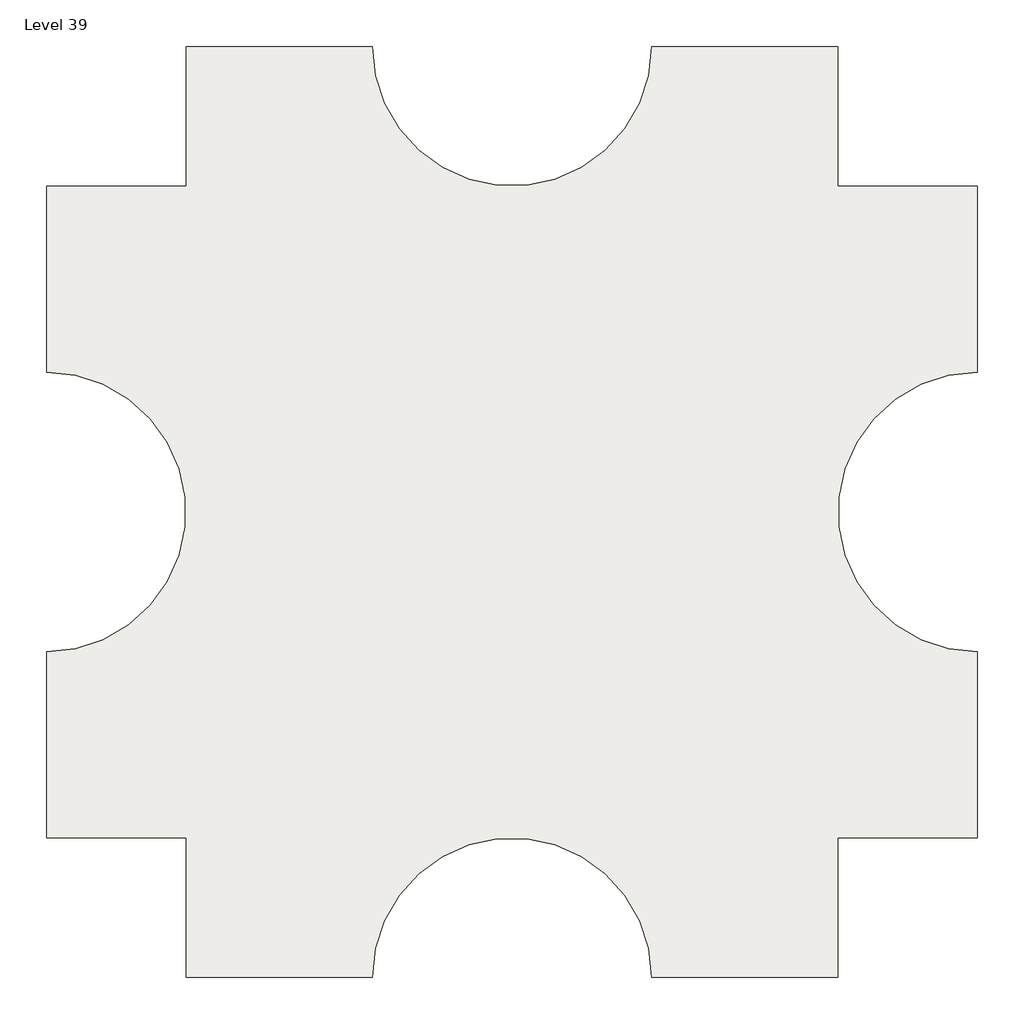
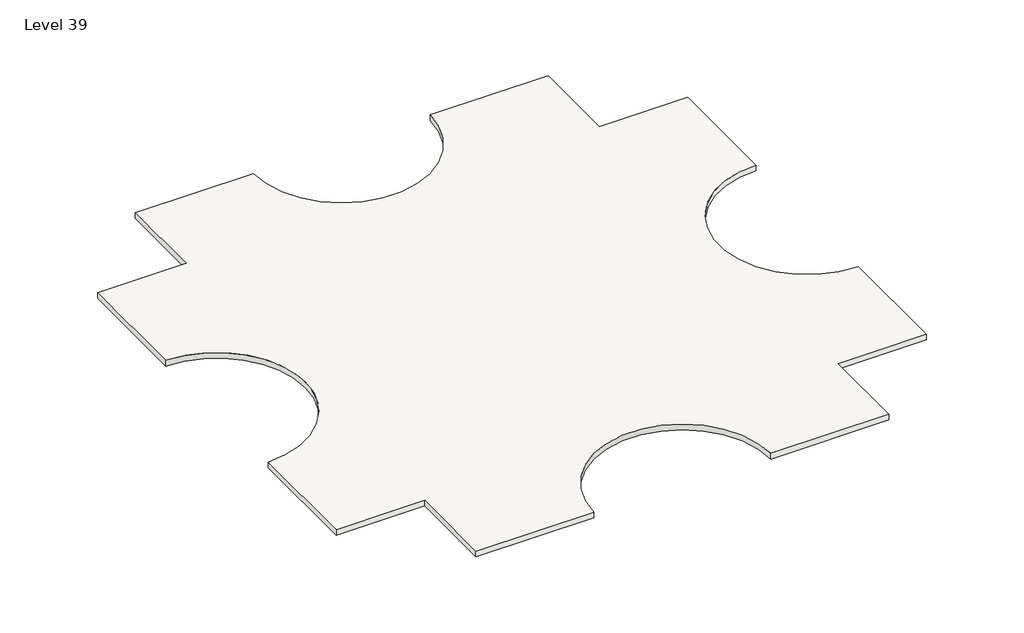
# One storey: 2 slabs.
"""IFC4 building model written with IfcOpenShell, lengths in millimetres."""

import ifcopenshell
import ifcopenshell.guid

model = None  # the IFC model being written
_history = None  # IfcOwnerHistory: only IFC2X3 demands one
_inside = {}  # id of a spatial element -> (the spatial element, [elements in it])
_under = {}  # id of a project, library or spatial element -> (it, [spatial elements below it])
_declared = {}  # id of a project -> (the project, [libraries it declares])
_typed = {}  # id of a type object -> (the type object, [elements of that type])
_made_of = {}  # id of a material, layer set ... -> (it, [elements and type objects made of it])


def new_model(schema):
    """Start an empty IFC model of exactly this schema.

    Asked for "IFC4X3", IfcOpenShell would pick the latest addendum, in which some entities
    have other attributes; the version numbers below select the first issue.
    IFC2X3 requires an IfcOwnerHistory on every rooted entity: one is made here for all.
    """
    global model, _history
    if schema == "IFC4X3":
        model = ifcopenshell.file(schema_version=(4, 3, 0, 0))
    else:
        model = ifcopenshell.file(schema=schema)
    _inside.clear()
    _under.clear()
    _declared.clear()
    _typed.clear()
    _made_of.clear()
    _history = None
    if model.schema == "IFC2X3":
        org = make("IfcOrganization", Name="unknown")
        user = make(
            "IfcPersonAndOrganization",
            ThePerson=make("IfcPerson", FamilyName="unknown"),
            TheOrganization=org,
        )
        app = make(
            "IfcApplication",
            ApplicationDeveloper=org,
            Version="unknown",
            ApplicationFullName="unknown",
            ApplicationIdentifier="unknown",
        )
        _history = make(
            "IfcOwnerHistory",
            OwningUser=user,
            OwningApplication=app,
            ChangeAction="ADDED",
            CreationDate=0,
        )
    return model


def make(cls, **values):
    """One entity of the class cls with the attributes given. An attribute that is None is left unset."""
    return model.create_entity(
        cls, **{name: value for name, value in values.items() if value is not None}
    )


def rooted(cls, **values):
    """An entity with a GlobalId (a new one), such as an element, a storey or a relation."""
    return make(cls, GlobalId=ifcopenshell.guid.new(), OwnerHistory=_history, **values)


def si_unit(unit_type, name, prefix=None):
    """IfcSIUnit, for example si_unit("LENGTHUNIT", "METRE", prefix="MILLI")."""
    return make("IfcSIUnit", UnitType=unit_type, Prefix=prefix, Name=name)


def assignment(units):
    """IfcUnitAssignment: the units of a project."""
    return None if units is None else make("IfcUnitAssignment", Units=units)


def point(xyz):
    """IfcCartesianPoint."""
    return None if xyz is None else make("IfcCartesianPoint", Coordinates=xyz)


def direction(xyz):
    """IfcDirection."""
    return None if xyz is None else make("IfcDirection", DirectionRatios=xyz)


def frame(location, z_axis=None, x_axis=None):
    """IfcAxis2Placement3D, a coordinate frame: its origin and axes. An axis left out is left unset."""
    return make(
        "IfcAxis2Placement3D",
        Location=point(location),
        Axis=direction(z_axis),
        RefDirection=direction(x_axis),
    )


def frame_2d(location, x_axis=None):
    """IfcAxis2Placement2D, a coordinate frame in the plane: its origin and x axis."""
    return make(
        "IfcAxis2Placement2D", Location=point(location), RefDirection=direction(x_axis)
    )


def origin():
    """The frame at (0, 0, 0) with its axes left unset."""
    return frame((0.0, 0.0, 0.0))


def place(relative_to, where):
    """IfcLocalPlacement: puts the frame where relative to a parent placement (None: the world)."""
    return make(
        "IfcLocalPlacement", PlacementRelTo=relative_to, RelativePlacement=where
    )


def context(
    kind, dimensions, precision=None, world=None, true_north=None, identifier=None
):
    """IfcGeometricRepresentationContext, for example the 3D "Model" context."""
    return make(
        "IfcGeometricRepresentationContext",
        ContextIdentifier=identifier,
        ContextType=kind,
        CoordinateSpaceDimension=dimensions,
        Precision=precision,
        WorldCoordinateSystem=world,
        TrueNorth=true_north,
    )


def project(units=None, contexts=None):
    """IfcProject with its units and contexts."""
    return rooted(
        "IfcProject",
        Name="project",
        RepresentationContexts=contexts,
        UnitsInContext=assignment(units),
    )


def spatial(cls, under=None, at=None, **own):
    """A site, building, storey or space (cls), placed at a placement, below another one or the project."""
    s = rooted(cls, ObjectPlacement=at, **own)
    if under is not None:
        _under.setdefault(under.id(), (under, []))[1].append(s)
    return s


def polyline(points):
    """IfcPolyline through the points."""
    return make("IfcPolyline", Points=[point(p) for p in points])


def circle_curve(where, radius):
    """IfcCircle in the frame where."""
    return make("IfcCircle", Position=where, Radius=radius)


def trimmed(basis, trim1, trim2, sense, master):
    """IfcTrimmedCurve: the piece of a basis curve between two trims."""
    return make(
        "IfcTrimmedCurve",
        BasisCurve=basis,
        Trim1=trim1,
        Trim2=trim2,
        SenseAgreement=sense,
        MasterRepresentation=master,
    )


def segment(curve, same_sense, transition):
    """IfcCompositeCurveSegment."""
    return make(
        "IfcCompositeCurveSegment",
        Transition=transition,
        SameSense=same_sense,
        ParentCurve=curve,
    )


def composite_curve(segments, self_intersect=None):
    """IfcCompositeCurve: segments joined end to end."""
    return make("IfcCompositeCurve", Segments=segments, SelfIntersect=self_intersect)


def outline(outer, holes=None, kind="AREA"):
    """IfcArbitraryClosedProfileDef: a profile drawn as a closed curve; with holes, ...WithVoids."""
    if holes is None:
        return make("IfcArbitraryClosedProfileDef", ProfileType=kind, OuterCurve=outer)
    return make(
        "IfcArbitraryProfileDefWithVoids",
        ProfileType=kind,
        OuterCurve=outer,
        InnerCurves=holes,
    )


def extrude(swept, where, along, depth):
    """IfcExtrudedAreaSolid: the profile swept, set in the frame where, extruded along a direction by depth."""
    return make(
        "IfcExtrudedAreaSolid",
        SweptArea=swept,
        Position=where,
        ExtrudedDirection=direction(along),
        Depth=depth,
    )


def shape(context_of_items, identifier, shape_type, items):
    """IfcShapeRepresentation: the items that make up one representation, for example the "Body"."""
    return make(
        "IfcShapeRepresentation",
        ContextOfItems=context_of_items,
        RepresentationIdentifier=identifier,
        RepresentationType=shape_type,
        Items=items,
    )


def made_of(thing, what):
    """Note that an element or type object is made of a material, layer set ...; save() writes the relation."""
    if what is not None:
        _made_of.setdefault(what.id(), (what, []))[1].append(thing)
    return thing


def element(
    cls,
    number,
    at=None,
    inside=None,
    cuts=None,
    type_object=None,
    material=None,
    context=None,
    identifier="Body",
    shape_type=None,
    held_by="IfcProductDefinitionShape",
    body=None,
    shapes=None,
    **own,
):
    """One element of the class cls, such as IfcWall. Its Tag is "e" and its number.

    at: its placement. inside: the storey or other place that contains it. cuts: it is an
    opening in that element (IfcRelVoidsElement). A single representation is given by context,
    identifier, shape_type and body (its items); several are given by shapes. held_by: the class
    of the entity that holds the representations. save() writes the other relations.
    """
    e = rooted(cls, Tag="e%d" % number, ObjectPlacement=at, **own)
    if body is not None:
        shapes = [shape(context, identifier, shape_type, body)]
    if shapes is not None:
        e.Representation = make(held_by, Representations=shapes)
    if inside is not None:
        _inside.setdefault(inside.id(), (inside, []))[1].append(e)
    if cuts is not None:
        rooted(
            "IfcRelVoidsElement", RelatingBuildingElement=cuts, RelatedOpeningElement=e
        )
    if type_object is not None:
        _typed.setdefault(type_object.id(), (type_object, []))[1].append(e)
    return made_of(e, material)


def aggregate(whole, parts):
    """IfcRelAggregates: a whole, such as a stair, and the parts it consists of."""
    return rooted("IfcRelAggregates", RelatingObject=whole, RelatedObjects=parts)


def save(model, path):
    """Write the relations noted so far, then the file.

    IfcRelAggregates (storeys below a building ...), IfcRelContainedInSpatialStructure (elements
    in a storey), IfcRelDefinesByType, IfcRelAssociatesMaterial and IfcRelDeclares: one each for
    every whole, place, type object, material and project.
    """
    for whole, parts in _under.values():
        aggregate(whole, parts)
    for where, things in _inside.values():
        rooted(
            "IfcRelContainedInSpatialStructure",
            RelatedElements=things,
            RelatingStructure=where,
        )
    for kind, things in _typed.values():
        rooted("IfcRelDefinesByType", RelatedObjects=things, RelatingType=kind)
    for what, things in _made_of.values():
        rooted("IfcRelAssociatesMaterial", RelatedObjects=things, RelatingMaterial=what)
    for by, libraries in _declared.values():
        rooted("IfcRelDeclares", RelatingContext=by, RelatedDefinitions=libraries)
    model.write(path)


model = new_model("IFC4")

# Units and contexts
model_context = context("Model", 3, world=origin())
ifc_project = project(units=[si_unit("LENGTHUNIT", "METRE", prefix="MILLI")], contexts=[model_context])

# Site, building, storey
site = spatial("IfcSite", under=ifc_project)
building = spatial("IfcBuilding", under=site)
storey = spatial("IfcBuildingStorey", under=building, Name="Level 39", Elevation=115824.0)

# Slabs
placement = place(None, origin())
element("IfcSlab", 1, ObjectType="Generic - 12\"", at=placement, inside=storey, context=model_context, shape_type="SweptSolid", body=[
    extrude(outline(composite_curve([segment(polyline([(-7150.3629456, 4479.6634547), (-7150.3629456, 9051.6634547), (-1054.3629456, 9051.6634547)]), True, "CONTINUOUS"), segment(trimmed(circle_curve(frame_2d((3517.6370544, 9051.6634547)), 4572.0), [point((-1054.3629456, 9051.6634547))], [point((8089.6370544, 9051.6634547))], True, "CARTESIAN"), True, "CONTINUOUS"), segment(polyline([(8089.6370544, 9051.6634547), (14185.6370544, 9051.6634547), (14185.6370544, 4479.6634547), (18757.6370544, 4479.6634547), (18757.6370544, -1616.3365453)]), True, "CONTINUOUS"), segment(trimmed(circle_curve(frame_2d((18757.6370544, -6188.3365453)), 4572.0), [point((18757.6370544, -1616.3365453))], [point((18757.6370544, -10760.3365453))], True, "CARTESIAN"), True, "CONTINUOUS"), segment(polyline([(18757.6370544, -10760.3365453), (18757.6370544, -16856.3365453), (14185.6370544, -16856.3365453), (14185.6370544, -21428.3365453), (8089.6370544, -21428.3365453)]), True, "CONTINUOUS"), segment(trimmed(circle_curve(frame_2d((3517.6370544, -21428.3365453)), 4572.0), [point((8089.6370544, -21428.3365453))], [point((-1054.3629456, -21428.3365453))], True, "CARTESIAN"), True, "CONTINUOUS"), segment(polyline([(-1054.3629456, -21428.3365453), (-7150.3629456, -21428.3365453), (-7150.3629456, -16856.3365453), (-11722.3629456, -16856.3365453), (-11722.3629456, -10760.3365453)]), True, "CONTINUOUS"), segment(trimmed(circle_curve(frame_2d((-11722.3629456, -6188.3365453)), 4572.0), [point((-11722.3629456, -10760.3365453))], [point((-11722.3629456, -1616.3365453))], True, "CARTESIAN"), True, "CONTINUOUS"), segment(polyline([(-11722.3629456, -1616.3365453), (-11722.3629456, 4479.6634547), (-7150.3629456, 4479.6634547)]), True, "CONTINUOUS")], self_intersect=False)), frame((0.0, 0.0, 115519.2), z_axis=(0.0, 0.0, 1.0), x_axis=(1.0, 0.0, 0.0)), (0.0, 0.0, 1.0), 304.8),
])
element("IfcSlab", 2, ObjectType="Generic - 12\"", at=placement, inside=storey, context=model_context, shape_type="SweptSolid", body=[
    extrude(outline(composite_curve([segment(polyline([(-7150.3629456, 4479.6634547), (-7150.3629456, 9051.6634547), (-1054.3629456, 9051.6634547)]), True, "CONTINUOUS"), segment(trimmed(circle_curve(frame_2d((3517.6370544, 9051.6634547)), 4572.0), [point((-1054.3629456, 9051.6634547))], [point((8089.6370544, 9051.6634547))], True, "CARTESIAN"), True, "CONTINUOUS"), segment(polyline([(8089.6370544, 9051.6634547), (14185.6370544, 9051.6634547), (14185.6370544, 4479.6634547), (18757.6370544, 4479.6634547), (18757.6370544, -1616.3365453)]), True, "CONTINUOUS"), segment(trimmed(circle_curve(frame_2d((18757.6370544, -6188.3365453)), 4572.0), [point((18757.6370544, -1616.3365453))], [point((18757.6370544, -10760.3365453))], True, "CARTESIAN"), True, "CONTINUOUS"), segment(polyline([(18757.6370544, -10760.3365453), (18757.6370544, -16856.3365453), (14185.6370544, -16856.3365453), (14185.6370544, -21428.3365453), (8089.6370544, -21428.3365453)]), True, "CONTINUOUS"), segment(trimmed(circle_curve(frame_2d((3517.6370544, -21428.3365453)), 4572.0), [point((8089.6370544, -21428.3365453))], [point((-1054.3629456, -21428.3365453))], True, "CARTESIAN"), True, "CONTINUOUS"), segment(polyline([(-1054.3629456, -21428.3365453), (-7150.3629456, -21428.3365453), (-7150.3629456, -16856.3365453), (-11722.3629456, -16856.3365453), (-11722.3629456, -10760.3365453)]), True, "CONTINUOUS"), segment(trimmed(circle_curve(frame_2d((-11722.3629456, -6188.3365453)), 4572.0), [point((-11722.3629456, -10760.3365453))], [point((-11722.3629456, -1616.3365453))], True, "CARTESIAN"), True, "CONTINUOUS"), segment(polyline([(-11722.3629456, -1616.3365453), (-11722.3629456, 4479.6634547), (-7150.3629456, 4479.6634547)]), True, "CONTINUOUS")], self_intersect=False)), frame((0.0, 0.0, 115519.2), z_axis=(0.0, 0.0, 1.0), x_axis=(1.0, 0.0, 0.0)), (0.0, 0.0, 1.0), 304.8),
])

save(model, "model.ifc")
